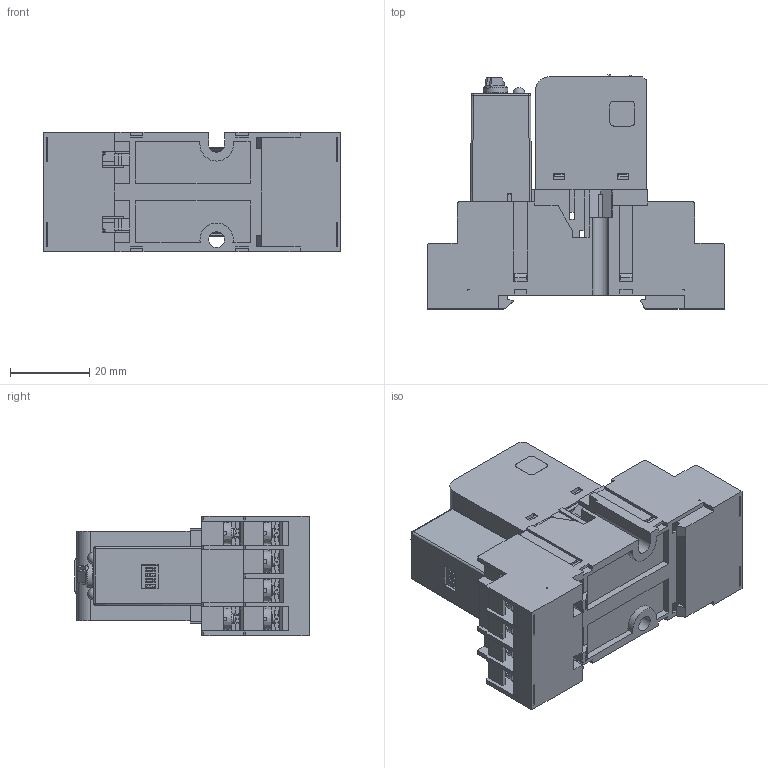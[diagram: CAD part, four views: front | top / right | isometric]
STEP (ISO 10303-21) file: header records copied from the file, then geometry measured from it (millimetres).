
FILE_DESCRIPTION(('STEP AP214'), '1');
FILE_NAME('Ðåëå ìîäóëüíîå ÐÏ30Õ-ÂÕ-004 (íà ïîêàç)', '', ('UNSPECIFIED'), ('UNSPECIFIED'), 'ASCON STEP Converter 1.6', 'ASCON Math Kernel', '');
FILE_SCHEMA(('AUTOMOTIVE_DESIGN { 1 0 10303 214 3 1 1}'));
Length unit declared in the file: millimetre
Bounding box: 74.9 x 59 x 30 mm (x, y, z)
Volume: 22668.5 mm3; surface area: 41581.9 mm2
Topology: 20 solids, 20 shells, 4190 faces, 11730 edges, 7514 vertices
Faces by surface type: plane 3058, cylinder 685, torus 196, bspline 148, cone 101, sphere 2
Full cylindrical faces by diameter (mm): 0.3 x4, 0.6 x2, 2.3 x14, 3 x32, 3.2 x3, 3.54 x14, 4 x1, 4.5 x14
Entity records: 192293 total; most frequent: CARTESIAN_POINT 54384, ORIENTED_EDGE 23134, DIRECTION 19325, EDGE_CURVE 11567, LINE 8087, VECTOR 8087, VERTEX_POINT 7514, AXIS2_PLACEMENT_3D 5619
